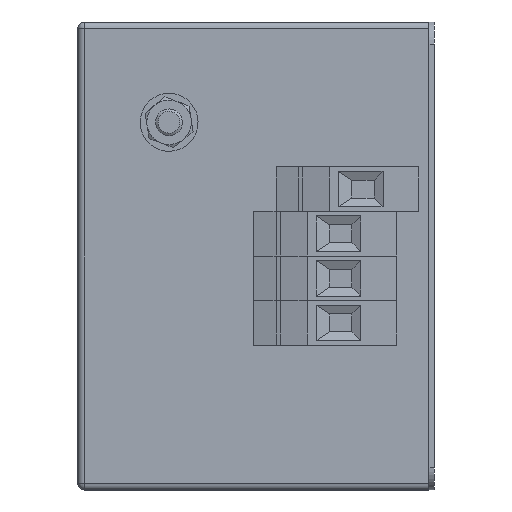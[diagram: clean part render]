
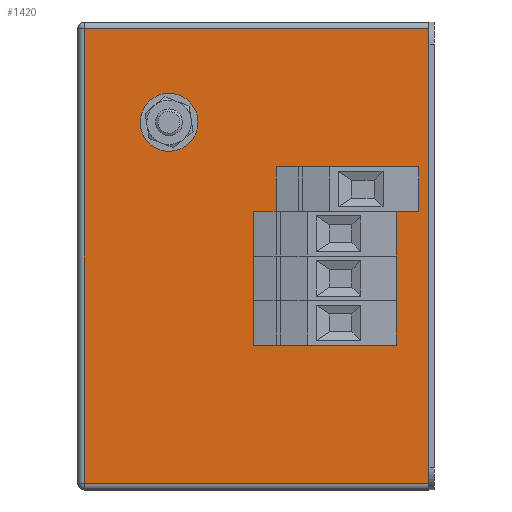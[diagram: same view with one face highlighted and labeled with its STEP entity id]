
A CAD part, left-side view. The second image highlights one B-rep face of the part: STEP entity #1420.
In plain terms, the highlighted planar face has unit normal (-1, 0, 0).
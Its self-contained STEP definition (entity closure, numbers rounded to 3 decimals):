
#1352 = VERTEX_POINT ( 'NONE', #4246 ) ;
#1353 = VERTEX_POINT ( 'NONE', #4245 ) ;
#1355 = VERTEX_POINT ( 'NONE', #4244 ) ;
#1356 = VERTEX_POINT ( 'NONE', #4243 ) ;
#1357 = EDGE_CURVE ( 'NONE', #1352, #1353, #4242, .T. ) ;
#1358 = EDGE_CURVE ( 'NONE', #1355, #1356, #4301, .T. ) ;
#1359 = VERTEX_POINT ( 'NONE', #4296 ) ;
#1360 = VERTEX_POINT ( 'NONE', #4295 ) ;
#1375 = EDGE_CURVE ( 'NONE', #1390, #1387, #4330, .T. ) ;
#1387 = VERTEX_POINT ( 'NONE', #4306 ) ;
#1390 = VERTEX_POINT ( 'NONE', #4304 ) ;
#1391 = VERTEX_POINT ( 'NONE', #4303 ) ;
#1392 = VERTEX_POINT ( 'NONE', #4367 ) ;
#1398 = EDGE_CURVE ( 'NONE', #1359, #1360, #4365, .T. ) ;
#1409 = EDGE_CURVE ( 'NONE', #1391, #1392, #4344, .T. ) ;
#1417 = EDGE_CURVE ( 'NONE', #1360, #1359, #4393, .T. ) ;
#1420 = ADVANCED_FACE ( 'NONE', ( #4378, #4377, #4376, #4375, #4374, #4373 ), #4383, .F. ) ;
#1421 = ORIENTED_EDGE ( 'NONE', *, *, #1426, .T. ) ;
#1422 = ORIENTED_EDGE ( 'NONE', *, *, #1357, .T. ) ;
#1424 = EDGE_LOOP ( 'NONE', ( #1427, #1445 ) ) ;
#1425 = EDGE_LOOP ( 'NONE', ( #1421, #1422 ) ) ;
#1426 = EDGE_CURVE ( 'NONE', #1353, #1352, #4428, .T. ) ;
#1427 = ORIENTED_EDGE ( 'NONE', *, *, #1417, .T. ) ;
#1429 = ORIENTED_EDGE ( 'NONE', *, *, #1430, .T. ) ;
#1430 = EDGE_CURVE ( 'NONE', #1392, #1391, #4423, .T. ) ;
#1434 = ORIENTED_EDGE ( 'NONE', *, *, #1409, .T. ) ;
#1435 = EDGE_LOOP ( 'NONE', ( #1429, #1434 ) ) ;
#1436 = EDGE_CURVE ( 'NONE', #1387, #1390, #4412, .T. ) ;
#1437 = ORIENTED_EDGE ( 'NONE', *, *, #1375, .T. ) ;
#1439 = ORIENTED_EDGE ( 'NONE', *, *, #1436, .T. ) ;
#1440 = EDGE_LOOP ( 'NONE', ( #1439, #1437 ) ) ;
#1441 = EDGE_CURVE ( 'NONE', #1356, #1355, #4405, .T. ) ;
#1442 = ORIENTED_EDGE ( 'NONE', *, *, #1358, .T. ) ;
#1443 = ORIENTED_EDGE ( 'NONE', *, *, #1441, .T. ) ;
#1444 = EDGE_LOOP ( 'NONE', ( #1443, #1442 ) ) ;
#1445 = ORIENTED_EDGE ( 'NONE', *, *, #1398, .T. ) ;
#1448 = VERTEX_POINT ( 'NONE', #4459 ) ;
#1450 = ORIENTED_EDGE ( 'NONE', *, *, #1466, .T. ) ;
#1451 = VERTEX_POINT ( 'NONE', #4458 ) ;
#1452 = ORIENTED_EDGE ( 'NONE', *, *, #1457, .T. ) ;
#1454 = VERTEX_POINT ( 'NONE', #4453 ) ;
#1455 = ORIENTED_EDGE ( 'NONE', *, *, #1456, .T. ) ;
#1456 = EDGE_CURVE ( 'NONE', #1454, #1448, #4452, .T. ) ;
#1457 = EDGE_CURVE ( 'NONE', #1448, #1451, #4448, .T. ) ;
#1459 = EDGE_LOOP ( 'NONE', ( #1460, #1455, #1452, #1450 ) ) ;
#1460 = ORIENTED_EDGE ( 'NONE', *, *, #1461, .T. ) ;
#1461 = EDGE_CURVE ( 'NONE', #1462, #1454, #4444, .T. ) ;
#1462 = VERTEX_POINT ( 'NONE', #4440 ) ;
#1466 = EDGE_CURVE ( 'NONE', #1451, #1462, #4434, .T. ) ;
#3915 = DIRECTION ( 'NONE',  ( 0., -1., 0. ) ) ;
#4239 = DIRECTION ( 'NONE',  ( 1., 0., 0. ) ) ;
#4240 = CARTESIAN_POINT ( 'NONE',  ( 25., 59.5, -22.5 ) ) ;
#4241 = AXIS2_PLACEMENT_3D ( 'NONE', #4240, #4239, #4302 ) ;
#4242 = CIRCLE ( 'NONE', #4241, 3. ) ;
#4243 = CARTESIAN_POINT ( 'NONE',  ( 25., 24.5, -51.6 ) ) ;
#4244 = CARTESIAN_POINT ( 'NONE',  ( 25., 24.5, -43.4 ) ) ;
#4245 = CARTESIAN_POINT ( 'NONE',  ( 25., 59.5, -25.5 ) ) ;
#4246 = CARTESIAN_POINT ( 'NONE',  ( 25., 59.5, -19.5 ) ) ;
#4295 = CARTESIAN_POINT ( 'NONE',  ( 25., 19.5, -41.6 ) ) ;
#4296 = CARTESIAN_POINT ( 'NONE',  ( 25., 19.5, -33.4 ) ) ;
#4297 = DIRECTION ( 'NONE',  ( 0., 0., -1. ) ) ;
#4298 = DIRECTION ( 'NONE',  ( 1., 0., 0. ) ) ;
#4299 = CARTESIAN_POINT ( 'NONE',  ( 25., 24.5, -47.5 ) ) ;
#4300 = AXIS2_PLACEMENT_3D ( 'NONE', #4299, #4298, #4297 ) ;
#4301 = CIRCLE ( 'NONE', #4300, 4.1 ) ;
#4302 = DIRECTION ( 'NONE',  ( 0., 0., -1. ) ) ;
#4303 = CARTESIAN_POINT ( 'NONE',  ( 25., 24.5, -53.4 ) ) ;
#4304 = CARTESIAN_POINT ( 'NONE',  ( 25., 24.5, -63.4 ) ) ;
#4306 = CARTESIAN_POINT ( 'NONE',  ( 25., 24.5, -71.6 ) ) ;
#4326 = DIRECTION ( 'NONE',  ( 0., 0., -1. ) ) ;
#4327 = DIRECTION ( 'NONE',  ( 1., 0., 0. ) ) ;
#4328 = CARTESIAN_POINT ( 'NONE',  ( 25., 24.5, -67.5 ) ) ;
#4329 = AXIS2_PLACEMENT_3D ( 'NONE', #4328, #4327, #4326 ) ;
#4330 = CIRCLE ( 'NONE', #4329, 4.1 ) ;
#4340 = DIRECTION ( 'NONE',  ( 0., 0., -1. ) ) ;
#4341 = DIRECTION ( 'NONE',  ( 1., 0., 0. ) ) ;
#4342 = CARTESIAN_POINT ( 'NONE',  ( 25., 24.5, -57.5 ) ) ;
#4343 = AXIS2_PLACEMENT_3D ( 'NONE', #4342, #4341, #4340 ) ;
#4344 = CIRCLE ( 'NONE', #4343, 4.1 ) ;
#4361 = DIRECTION ( 'NONE',  ( 0., 0., -1. ) ) ;
#4362 = DIRECTION ( 'NONE',  ( 1., 0., 0. ) ) ;
#4363 = CARTESIAN_POINT ( 'NONE',  ( 25., 19.5, -37.5 ) ) ;
#4364 = AXIS2_PLACEMENT_3D ( 'NONE', #4363, #4362, #4361 ) ;
#4365 = CIRCLE ( 'NONE', #4364, 4.1 ) ;
#4367 = CARTESIAN_POINT ( 'NONE',  ( 25., 24.5, -61.6 ) ) ;
#4369 = DIRECTION ( 'NONE',  ( 0., 0., -1. ) ) ;
#4370 = DIRECTION ( 'NONE',  ( 1., 0., 0. ) ) ;
#4371 = CARTESIAN_POINT ( 'NONE',  ( 25., 80., 0. ) ) ;
#4372 = AXIS2_PLACEMENT_3D ( 'NONE', #4371, #4370, #4369 ) ;
#4373 = FACE_OUTER_BOUND ( 'NONE', #1459, .T. ) ;
#4374 = FACE_BOUND ( 'NONE', #1435, .T. ) ;
#4375 = FACE_BOUND ( 'NONE', #1440, .T. ) ;
#4376 = FACE_BOUND ( 'NONE', #1444, .T. ) ;
#4377 = FACE_BOUND ( 'NONE', #1424, .T. ) ;
#4378 = FACE_BOUND ( 'NONE', #1425, .T. ) ;
#4383 = PLANE ( 'NONE',  #4372 ) ;
#4390 = DIRECTION ( 'NONE',  ( 0., 0., -1. ) ) ;
#4391 = DIRECTION ( 'NONE',  ( 1., 0., 0. ) ) ;
#4392 = AXIS2_PLACEMENT_3D ( 'NONE', #4399, #4391, #4390 ) ;
#4393 = CIRCLE ( 'NONE', #4392, 4.1 ) ;
#4399 = CARTESIAN_POINT ( 'NONE',  ( 25., 19.5, -37.5 ) ) ;
#4401 = DIRECTION ( 'NONE',  ( 0., 0., -1. ) ) ;
#4402 = DIRECTION ( 'NONE',  ( 1., 0., 0. ) ) ;
#4403 = CARTESIAN_POINT ( 'NONE',  ( 25., 24.5, -47.5 ) ) ;
#4404 = AXIS2_PLACEMENT_3D ( 'NONE', #4403, #4402, #4401 ) ;
#4405 = CIRCLE ( 'NONE', #4404, 4.1 ) ;
#4408 = DIRECTION ( 'NONE',  ( 0., 0., -1. ) ) ;
#4409 = DIRECTION ( 'NONE',  ( 1., 0., 0. ) ) ;
#4410 = CARTESIAN_POINT ( 'NONE',  ( 25., 24.5, -67.5 ) ) ;
#4411 = AXIS2_PLACEMENT_3D ( 'NONE', #4410, #4409, #4408 ) ;
#4412 = CIRCLE ( 'NONE', #4411, 4.1 ) ;
#4419 = DIRECTION ( 'NONE',  ( 0., 0., -1. ) ) ;
#4420 = DIRECTION ( 'NONE',  ( 1., 0., 0. ) ) ;
#4421 = CARTESIAN_POINT ( 'NONE',  ( 25., 24.5, -57.5 ) ) ;
#4422 = AXIS2_PLACEMENT_3D ( 'NONE', #4421, #4420, #4419 ) ;
#4423 = CIRCLE ( 'NONE', #4422, 4.1 ) ;
#4424 = DIRECTION ( 'NONE',  ( 0., 0., -1. ) ) ;
#4425 = DIRECTION ( 'NONE',  ( 1., 0., 0. ) ) ;
#4426 = CARTESIAN_POINT ( 'NONE',  ( 25., 59.5, -22.5 ) ) ;
#4427 = AXIS2_PLACEMENT_3D ( 'NONE', #4426, #4425, #4424 ) ;
#4428 = CIRCLE ( 'NONE', #4427, 3. ) ;
#4432 = VECTOR ( 'NONE', #3915, 1000. ) ;
#4433 = CARTESIAN_POINT ( 'NONE',  ( 25., 80., -103.5 ) ) ;
#4434 = LINE ( 'NONE', #4433, #4432 ) ;
#4440 = CARTESIAN_POINT ( 'NONE',  ( 25., 1.2, -103.5 ) ) ;
#4441 = DIRECTION ( 'NONE',  ( 0., 0., 1. ) ) ;
#4442 = VECTOR ( 'NONE', #4441, 1000. ) ;
#4443 = CARTESIAN_POINT ( 'NONE',  ( 25., 1.2, 0. ) ) ;
#4444 = LINE ( 'NONE', #4443, #4442 ) ;
#4445 = DIRECTION ( 'NONE',  ( 0., 0., -1. ) ) ;
#4446 = VECTOR ( 'NONE', #4445, 1000. ) ;
#4447 = CARTESIAN_POINT ( 'NONE',  ( 25., 78.5, 0. ) ) ;
#4448 = LINE ( 'NONE', #4447, #4446 ) ;
#4449 = DIRECTION ( 'NONE',  ( 0., 1., 0. ) ) ;
#4450 = VECTOR ( 'NONE', #4449, 1000. ) ;
#4451 = CARTESIAN_POINT ( 'NONE',  ( 25., 80., -1.5 ) ) ;
#4452 = LINE ( 'NONE', #4451, #4450 ) ;
#4453 = CARTESIAN_POINT ( 'NONE',  ( 25., 1.2, -1.5 ) ) ;
#4458 = CARTESIAN_POINT ( 'NONE',  ( 25., 78.5, -103.5 ) ) ;
#4459 = CARTESIAN_POINT ( 'NONE',  ( 25., 78.5, -1.5 ) ) ;
